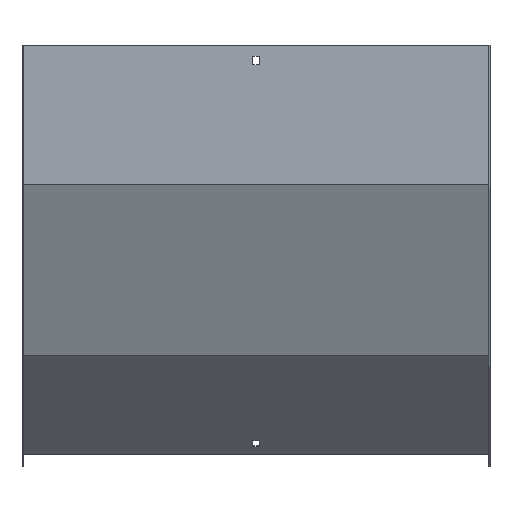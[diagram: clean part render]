
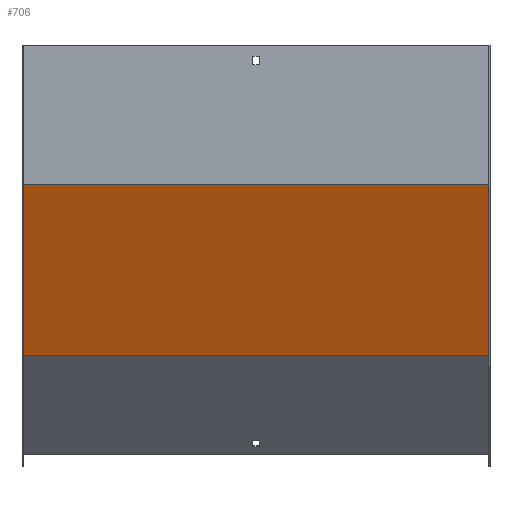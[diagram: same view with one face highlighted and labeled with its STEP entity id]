
A CAD part, front view. The second image highlights one B-rep face of the part: STEP entity #706.
In plain terms, the highlighted planar face has unit normal (0, -0.924, -0.383).
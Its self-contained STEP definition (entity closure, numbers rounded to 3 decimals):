
#6 = VERTEX_POINT ( 'NONE', #51 ) ;
#47 = DIRECTION ( 'NONE',  ( 0., 0.924, 0.383 ) ) ;
#51 = CARTESIAN_POINT ( 'NONE',  ( -250., 74.691, -334.04 ) ) ;
#55 = EDGE_CURVE ( 'NONE', #709, #6, #640, .T. ) ;
#58 = LINE ( 'NONE', #765, #700 ) ;
#62 = DIRECTION ( 'NONE',  ( 0., 0.383, -0.924 ) ) ;
#128 = DIRECTION ( 'NONE',  ( -1., 0., 0. ) ) ;
#172 = CARTESIAN_POINT ( 'NONE',  ( 251.5, -1.386, -150.374 ) ) ;
#175 = LINE ( 'NONE', #325, #263 ) ;
#252 = EDGE_CURVE ( 'NONE', #545, #709, #359, .T. ) ;
#263 = VECTOR ( 'NONE', #128, 1000. ) ;
#294 = VECTOR ( 'NONE', #524, 1000. ) ;
#302 = FACE_OUTER_BOUND ( 'NONE', #731, .T. ) ;
#322 = PLANE ( 'NONE',  #500 ) ;
#325 = CARTESIAN_POINT ( 'NONE',  ( 251.5, 74.691, -334.04 ) ) ;
#359 = LINE ( 'NONE', #617, #390 ) ;
#366 = ORIENTED_EDGE ( 'NONE', *, *, #843, .F. ) ;
#390 = VECTOR ( 'NONE', #817, 1000. ) ;
#454 = EDGE_CURVE ( 'NONE', #576, #6, #175, .T. ) ;
#500 = AXIS2_PLACEMENT_3D ( 'NONE', #172, #47, #635 ) ;
#524 = DIRECTION ( 'NONE',  ( 0., 0.383, -0.924 ) ) ;
#545 = VERTEX_POINT ( 'NONE', #795 ) ;
#570 = CARTESIAN_POINT ( 'NONE',  ( -250., -1.5, -150.098 ) ) ;
#576 = VERTEX_POINT ( 'NONE', #702 ) ;
#617 = CARTESIAN_POINT ( 'NONE',  ( 251.5, -1.5, -150.098 ) ) ;
#635 = DIRECTION ( 'NONE',  ( 0., -0.383, 0.924 ) ) ;
#640 = LINE ( 'NONE', #796, #294 ) ;
#700 = VECTOR ( 'NONE', #62, 1000. ) ;
#702 = CARTESIAN_POINT ( 'NONE',  ( 250., 74.691, -334.04 ) ) ;
#706 = ADVANCED_FACE ( 'NONE', ( #302 ), #322, .F. ) ;
#709 = VERTEX_POINT ( 'NONE', #570 ) ;
#720 = ORIENTED_EDGE ( 'NONE', *, *, #55, .T. ) ;
#731 = EDGE_LOOP ( 'NONE', ( #720, #827, #366, #808 ) ) ;
#765 = CARTESIAN_POINT ( 'NONE',  ( 250., -54.348, -22.512 ) ) ;
#795 = CARTESIAN_POINT ( 'NONE',  ( 250., -1.5, -150.098 ) ) ;
#796 = CARTESIAN_POINT ( 'NONE',  ( -250., -54.348, -22.512 ) ) ;
#808 = ORIENTED_EDGE ( 'NONE', *, *, #252, .T. ) ;
#817 = DIRECTION ( 'NONE',  ( -1., 0., 0. ) ) ;
#827 = ORIENTED_EDGE ( 'NONE', *, *, #454, .F. ) ;
#843 = EDGE_CURVE ( 'NONE', #545, #576, #58, .T. ) ;
